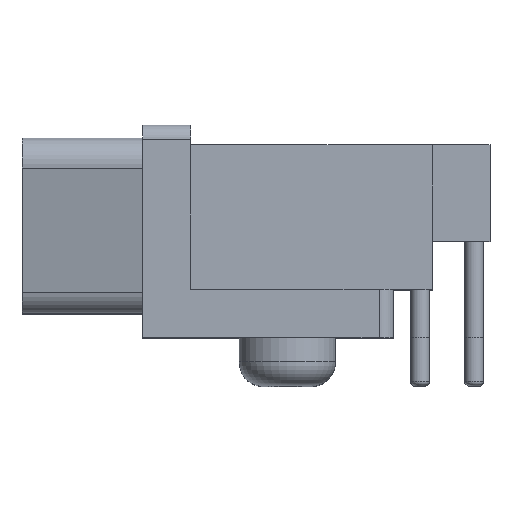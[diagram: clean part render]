
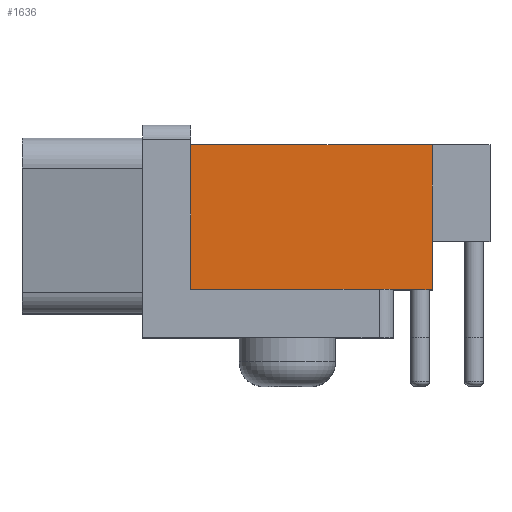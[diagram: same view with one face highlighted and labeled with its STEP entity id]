
A CAD part, top view. The second image highlights one B-rep face of the part: STEP entity #1636.
In plain terms, the highlighted planar face has unit normal (0, 0, 1).
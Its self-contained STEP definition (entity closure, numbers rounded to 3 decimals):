
#84 = VERTEX_POINT('',#85);
#85 = CARTESIAN_POINT('',(13.208,2.54,23.432));
#99 = PLANE('',#100);
#100 = AXIS2_PLACEMENT_3D('',#101,#102,#103);
#101 = CARTESIAN_POINT('',(2.54,2.54,7.557));
#102 = DIRECTION('',(0.,-1.,0.));
#103 = DIRECTION('',(0.,0.,1.));
#127 = PLANE('',#128);
#128 = AXIS2_PLACEMENT_3D('',#129,#130,#131);
#129 = CARTESIAN_POINT('',(2.54,2.54,0.));
#130 = DIRECTION('',(0.,1.,0.));
#131 = DIRECTION('',(1.,0.,0.));
#382 = PLANE('',#383);
#383 = AXIS2_PLACEMENT_3D('',#384,#385,#386);
#384 = CARTESIAN_POINT('',(2.54,11.176,0.));
#385 = DIRECTION('',(1.,0.,0.));
#386 = DIRECTION('',(0.,-1.,0.));
#521 = VERTEX_POINT('',#522);
#522 = CARTESIAN_POINT('',(15.24,2.54,23.432));
#536 = PLANE('',#537);
#537 = AXIS2_PLACEMENT_3D('',#538,#539,#540);
#538 = CARTESIAN_POINT('',(15.24,6.35,15.494));
#539 = DIRECTION('',(-1.,0.,0.));
#540 = DIRECTION('',(0.,-1.,0.));
#548 = EDGE_CURVE('',#84,#521,#549,.T.);
#549 = SURFACE_CURVE('',#550,(#554,#561),.PCURVE_S1.);
#550 = LINE('',#551,#552);
#551 = CARTESIAN_POINT('',(2.54,2.54,23.432));
#552 = VECTOR('',#553,1.);
#553 = DIRECTION('',(1.,0.,0.));
#554 = PCURVE('',#99,#555);
#555 = DEFINITIONAL_REPRESENTATION('',(#556),#560);
#556 = LINE('',#557,#558);
#557 = CARTESIAN_POINT('',(15.875,0.));
#558 = VECTOR('',#559,1.);
#559 = DIRECTION('',(0.,-1.));
#560 = ( GEOMETRIC_REPRESENTATION_CONTEXT(2) 
PARAMETRIC_REPRESENTATION_CONTEXT() REPRESENTATION_CONTEXT('2D SPACE',''
  ) );
#561 = PCURVE('',#562,#567);
#562 = PLANE('',#563);
#563 = AXIS2_PLACEMENT_3D('',#564,#565,#566);
#564 = CARTESIAN_POINT('',(2.54,2.54,23.432));
#565 = DIRECTION('',(0.,0.,1.));
#566 = DIRECTION('',(0.,1.,0.));
#567 = DEFINITIONAL_REPRESENTATION('',(#568),#572);
#568 = LINE('',#569,#570);
#569 = CARTESIAN_POINT('',(0.,0.));
#570 = VECTOR('',#571,1.);
#571 = DIRECTION('',(0.,-1.));
#572 = ( GEOMETRIC_REPRESENTATION_CONTEXT(2) 
PARAMETRIC_REPRESENTATION_CONTEXT() REPRESENTATION_CONTEXT('2D SPACE',''
  ) );
#686 = EDGE_CURVE('',#687,#84,#689,.T.);
#687 = VERTEX_POINT('',#688);
#688 = CARTESIAN_POINT('',(2.54,2.54,23.432));
#689 = SURFACE_CURVE('',#690,(#694,#701),.PCURVE_S1.);
#690 = LINE('',#691,#692);
#691 = CARTESIAN_POINT('',(2.54,2.54,23.432));
#692 = VECTOR('',#693,1.);
#693 = DIRECTION('',(1.,0.,0.));
#694 = PCURVE('',#127,#695);
#695 = DEFINITIONAL_REPRESENTATION('',(#696),#700);
#696 = LINE('',#697,#698);
#697 = CARTESIAN_POINT('',(0.,-23.432));
#698 = VECTOR('',#699,1.);
#699 = DIRECTION('',(1.,0.));
#700 = ( GEOMETRIC_REPRESENTATION_CONTEXT(2) 
PARAMETRIC_REPRESENTATION_CONTEXT() REPRESENTATION_CONTEXT('2D SPACE',''
  ) );
#701 = PCURVE('',#562,#702);
#702 = DEFINITIONAL_REPRESENTATION('',(#703),#707);
#703 = LINE('',#704,#705);
#704 = CARTESIAN_POINT('',(0.,0.));
#705 = VECTOR('',#706,1.);
#706 = DIRECTION('',(0.,-1.));
#707 = ( GEOMETRIC_REPRESENTATION_CONTEXT(2) 
PARAMETRIC_REPRESENTATION_CONTEXT() REPRESENTATION_CONTEXT('2D SPACE',''
  ) );
#1401 = EDGE_CURVE('',#687,#1402,#1404,.T.);
#1402 = VERTEX_POINT('',#1403);
#1403 = CARTESIAN_POINT('',(2.54,10.16,23.432));
#1404 = SURFACE_CURVE('',#1405,(#1409,#1416),.PCURVE_S1.);
#1405 = LINE('',#1406,#1407);
#1406 = CARTESIAN_POINT('',(2.54,2.54,23.432));
#1407 = VECTOR('',#1408,1.);
#1408 = DIRECTION('',(0.,1.,0.));
#1409 = PCURVE('',#382,#1410);
#1410 = DEFINITIONAL_REPRESENTATION('',(#1411),#1415);
#1411 = LINE('',#1412,#1413);
#1412 = CARTESIAN_POINT('',(8.636,-23.432));
#1413 = VECTOR('',#1414,1.);
#1414 = DIRECTION('',(-1.,0.));
#1415 = ( GEOMETRIC_REPRESENTATION_CONTEXT(2) 
PARAMETRIC_REPRESENTATION_CONTEXT() REPRESENTATION_CONTEXT('2D SPACE',''
  ) );
#1416 = PCURVE('',#562,#1417);
#1417 = DEFINITIONAL_REPRESENTATION('',(#1418),#1422);
#1418 = LINE('',#1419,#1420);
#1419 = CARTESIAN_POINT('',(0.,0.));
#1420 = VECTOR('',#1421,1.);
#1421 = DIRECTION('',(1.,0.));
#1422 = ( GEOMETRIC_REPRESENTATION_CONTEXT(2) 
PARAMETRIC_REPRESENTATION_CONTEXT() REPRESENTATION_CONTEXT('2D SPACE',''
  ) );
#1440 = PLANE('',#1441);
#1441 = AXIS2_PLACEMENT_3D('',#1442,#1443,#1444);
#1442 = CARTESIAN_POINT('',(2.54,10.16,23.432));
#1443 = DIRECTION('',(0.,1.,0.));
#1444 = DIRECTION('',(0.,0.,-1.));
#1636 = ADVANCED_FACE('',(#1637),#562,.T.);
#1637 = FACE_BOUND('',#1638,.T.);
#1638 = EDGE_LOOP('',(#1639,#1640,#1641,#1664,#1692,#1713));
#1639 = ORIENTED_EDGE('',*,*,#686,.T.);
#1640 = ORIENTED_EDGE('',*,*,#548,.T.);
#1641 = ORIENTED_EDGE('',*,*,#1642,.T.);
#1642 = EDGE_CURVE('',#521,#1643,#1645,.T.);
#1643 = VERTEX_POINT('',#1644);
#1644 = CARTESIAN_POINT('',(15.24,5.08,23.432));
#1645 = SURFACE_CURVE('',#1646,(#1650,#1657),.PCURVE_S1.);
#1646 = LINE('',#1647,#1648);
#1647 = CARTESIAN_POINT('',(15.24,2.54,23.432));
#1648 = VECTOR('',#1649,1.);
#1649 = DIRECTION('',(0.,1.,0.));
#1650 = PCURVE('',#562,#1651);
#1651 = DEFINITIONAL_REPRESENTATION('',(#1652),#1656);
#1652 = LINE('',#1653,#1654);
#1653 = CARTESIAN_POINT('',(0.,-12.7));
#1654 = VECTOR('',#1655,1.);
#1655 = DIRECTION('',(1.,0.));
#1656 = ( GEOMETRIC_REPRESENTATION_CONTEXT(2) 
PARAMETRIC_REPRESENTATION_CONTEXT() REPRESENTATION_CONTEXT('2D SPACE',''
  ) );
#1657 = PCURVE('',#536,#1658);
#1658 = DEFINITIONAL_REPRESENTATION('',(#1659),#1663);
#1659 = LINE('',#1660,#1661);
#1660 = CARTESIAN_POINT('',(3.81,7.938));
#1661 = VECTOR('',#1662,1.);
#1662 = DIRECTION('',(-1.,0.));
#1663 = ( GEOMETRIC_REPRESENTATION_CONTEXT(2) 
PARAMETRIC_REPRESENTATION_CONTEXT() REPRESENTATION_CONTEXT('2D SPACE',''
  ) );
#1664 = ORIENTED_EDGE('',*,*,#1665,.T.);
#1665 = EDGE_CURVE('',#1643,#1666,#1668,.T.);
#1666 = VERTEX_POINT('',#1667);
#1667 = CARTESIAN_POINT('',(15.24,10.16,23.432));
#1668 = SURFACE_CURVE('',#1669,(#1673,#1680),.PCURVE_S1.);
#1669 = LINE('',#1670,#1671);
#1670 = CARTESIAN_POINT('',(15.24,2.54,23.432));
#1671 = VECTOR('',#1672,1.);
#1672 = DIRECTION('',(0.,1.,0.));
#1673 = PCURVE('',#562,#1674);
#1674 = DEFINITIONAL_REPRESENTATION('',(#1675),#1679);
#1675 = LINE('',#1676,#1677);
#1676 = CARTESIAN_POINT('',(0.,-12.7));
#1677 = VECTOR('',#1678,1.);
#1678 = DIRECTION('',(1.,0.));
#1679 = ( GEOMETRIC_REPRESENTATION_CONTEXT(2) 
PARAMETRIC_REPRESENTATION_CONTEXT() REPRESENTATION_CONTEXT('2D SPACE',''
  ) );
#1680 = PCURVE('',#1681,#1686);
#1681 = PLANE('',#1682);
#1682 = AXIS2_PLACEMENT_3D('',#1683,#1684,#1685);
#1683 = CARTESIAN_POINT('',(15.24,10.16,23.432));
#1684 = DIRECTION('',(0.,0.,-1.));
#1685 = DIRECTION('',(0.,-1.,0.));
#1686 = DEFINITIONAL_REPRESENTATION('',(#1687),#1691);
#1687 = LINE('',#1688,#1689);
#1688 = CARTESIAN_POINT('',(7.62,0.));
#1689 = VECTOR('',#1690,1.);
#1690 = DIRECTION('',(-1.,-0.));
#1691 = ( GEOMETRIC_REPRESENTATION_CONTEXT(2) 
PARAMETRIC_REPRESENTATION_CONTEXT() REPRESENTATION_CONTEXT('2D SPACE',''
  ) );
#1692 = ORIENTED_EDGE('',*,*,#1693,.F.);
#1693 = EDGE_CURVE('',#1402,#1666,#1694,.T.);
#1694 = SURFACE_CURVE('',#1695,(#1699,#1706),.PCURVE_S1.);
#1695 = LINE('',#1696,#1697);
#1696 = CARTESIAN_POINT('',(2.54,10.16,23.432));
#1697 = VECTOR('',#1698,1.);
#1698 = DIRECTION('',(1.,0.,0.));
#1699 = PCURVE('',#562,#1700);
#1700 = DEFINITIONAL_REPRESENTATION('',(#1701),#1705);
#1701 = LINE('',#1702,#1703);
#1702 = CARTESIAN_POINT('',(7.62,0.));
#1703 = VECTOR('',#1704,1.);
#1704 = DIRECTION('',(0.,-1.));
#1705 = ( GEOMETRIC_REPRESENTATION_CONTEXT(2) 
PARAMETRIC_REPRESENTATION_CONTEXT() REPRESENTATION_CONTEXT('2D SPACE',''
  ) );
#1706 = PCURVE('',#1440,#1707);
#1707 = DEFINITIONAL_REPRESENTATION('',(#1708),#1712);
#1708 = LINE('',#1709,#1710);
#1709 = CARTESIAN_POINT('',(0.,0.));
#1710 = VECTOR('',#1711,1.);
#1711 = DIRECTION('',(0.,-1.));
#1712 = ( GEOMETRIC_REPRESENTATION_CONTEXT(2) 
PARAMETRIC_REPRESENTATION_CONTEXT() REPRESENTATION_CONTEXT('2D SPACE',''
  ) );
#1713 = ORIENTED_EDGE('',*,*,#1401,.F.);
